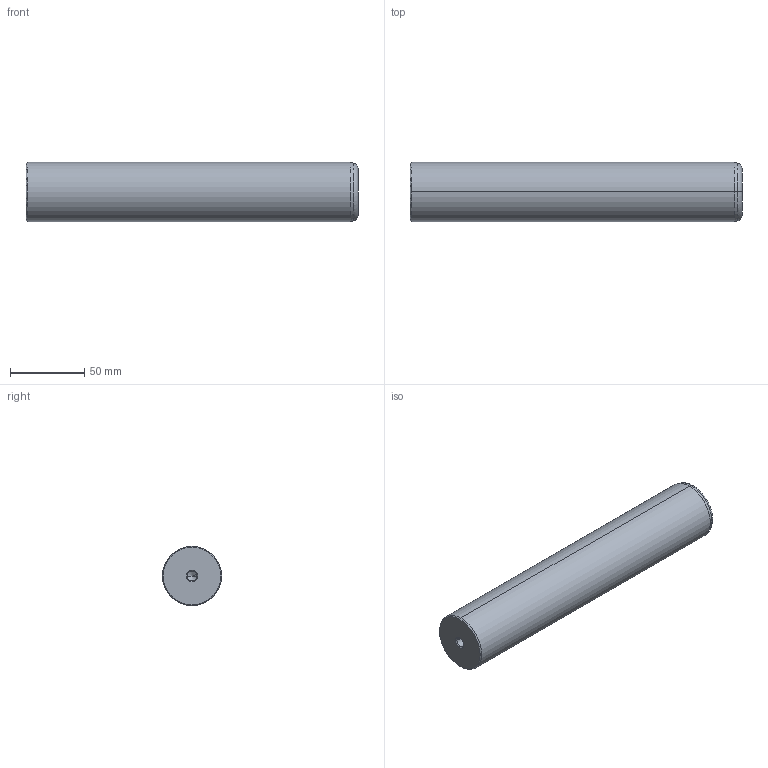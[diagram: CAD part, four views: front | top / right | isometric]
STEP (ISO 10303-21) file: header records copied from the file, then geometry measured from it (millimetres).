
FILE_DESCRIPTION(('CATIA V5 STEP Exchange'),'2;1');
FILE_NAME('C:\Users\Utente\Desktop\IO LAVORO\3D X SITO CF\X SITO\720\720-40x224.stp','2020-12-30T21:59:21+00:00',('none'),('none'),'CATIA Version 5 Release 20 GA (IN-10)','CATIA V5 STEP AP203','none');
FILE_SCHEMA(('CONFIG_CONTROL_DESIGN'));
Length unit declared in the file: millimetre
Products named in the file (1): 720-40x224
Bounding box: 224 x 40 x 40 mm (x, y, z)
Volume: 279112.9 mm3; surface area: 31332.8 mm2
Topology: 1 solids, 1 shells, 22 faces, 56 edges, 34 vertices
Faces by surface type: cone 12, cylinder 6, plane 2, torus 2
Entity records: 755 total; most frequent: CARTESIAN_POINT 216, ORIENTED_EDGE 104, DIRECTION 89, EDGE_CURVE 52, AXIS2_PLACEMENT_3D 50, VERTEX_POINT 34, CIRCLE 27, EDGE_LOOP 24
